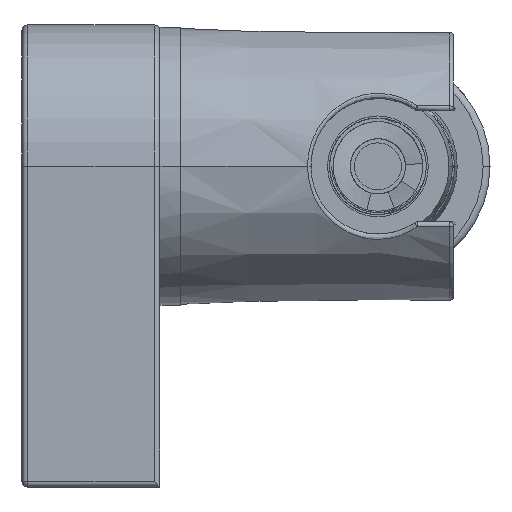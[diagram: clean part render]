
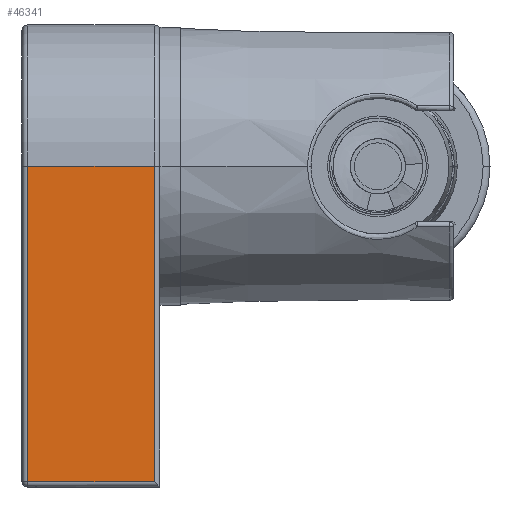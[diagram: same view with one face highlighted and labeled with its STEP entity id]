
A CAD part, front view. The second image highlights one B-rep face of the part: STEP entity #46341.
In plain terms, the highlighted planar face has unit normal (0, -1, 0).
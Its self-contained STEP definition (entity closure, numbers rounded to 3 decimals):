
#2460 = CARTESIAN_POINT ( 'NONE',  ( 9.996, -20.5, 0. ) ) ;
#3968 = ORIENTED_EDGE ( 'NONE', *, *, #6846, .F. ) ;
#6846 = EDGE_CURVE ( 'NONE', #44866, #54608, #73436, .T. ) ;
#7258 = CARTESIAN_POINT ( 'NONE',  ( 9.196, -20.5, 0.8 ) ) ;
#7888 = CARTESIAN_POINT ( 'NONE',  ( 9.196, -20.5, 0.8 ) ) ;
#12455 = ORIENTED_EDGE ( 'NONE', *, *, #60964, .F. ) ;
#14453 = VECTOR ( 'NONE', #70352, 1000. ) ;
#15178 = PLANE ( 'NONE',  #51675 ) ;
#16905 = CARTESIAN_POINT ( 'NONE',  ( 9.196, -20.5, 0.8 ) ) ;
#22657 = LINE ( 'NONE', #46868, #14453 ) ;
#25683 = VERTEX_POINT ( 'NONE', #53461 ) ;
#26421 = LINE ( 'NONE', #51019, #64764 ) ;
#29798 = EDGE_LOOP ( 'NONE', ( #44571, #12455, #3968, #60987 ) ) ;
#31473 = DIRECTION ( 'NONE',  ( 0., 0., 1. ) ) ;
#32262 = EDGE_CURVE ( 'NONE', #25683, #64723, #22657, .T. ) ;
#38718 = DIRECTION ( 'NONE',  ( 0., 0., 1. ) ) ;
#39378 = DIRECTION ( 'NONE',  ( 0., 0., 1. ) ) ;
#41396 = LINE ( 'NONE', #7258, #74497 ) ;
#43215 = DIRECTION ( 'NONE',  ( -1., 0., 0. ) ) ;
#44571 = ORIENTED_EDGE ( 'NONE', *, *, #32262, .T. ) ;
#44866 = VERTEX_POINT ( 'NONE', #16905 ) ;
#45735 = FACE_OUTER_BOUND ( 'NONE', #29798, .T. ) ;
#45897 = EDGE_CURVE ( 'NONE', #44866, #25683, #41396, .T. ) ;
#46341 = ADVANCED_FACE ( 'NONE', ( #45735 ), #15178, .T. ) ;
#46355 = CARTESIAN_POINT ( 'NONE',  ( -9.204, -20.5, 46.5 ) ) ;
#46868 = CARTESIAN_POINT ( 'NONE',  ( 9.196, -20.5, 46.5 ) ) ;
#51019 = CARTESIAN_POINT ( 'NONE',  ( -9.204, -20.5, 0.8 ) ) ;
#51675 = AXIS2_PLACEMENT_3D ( 'NONE', #2460, #63230, #39378 ) ;
#53461 = CARTESIAN_POINT ( 'NONE',  ( 9.196, -20.5, 46.5 ) ) ;
#54608 = VERTEX_POINT ( 'NONE', #56652 ) ;
#56652 = CARTESIAN_POINT ( 'NONE',  ( -9.204, -20.5, 0.8 ) ) ;
#60964 = EDGE_CURVE ( 'NONE', #54608, #64723, #26421, .T. ) ;
#60987 = ORIENTED_EDGE ( 'NONE', *, *, #45897, .T. ) ;
#63230 = DIRECTION ( 'NONE',  ( 0., -1., 0. ) ) ;
#64723 = VERTEX_POINT ( 'NONE', #46355 ) ;
#64764 = VECTOR ( 'NONE', #38718, 1000. ) ;
#70352 = DIRECTION ( 'NONE',  ( -1., 0., 0. ) ) ;
#73436 = LINE ( 'NONE', #7888, #76971 ) ;
#74497 = VECTOR ( 'NONE', #31473, 1000. ) ;
#76971 = VECTOR ( 'NONE', #43215, 1000. ) ;
